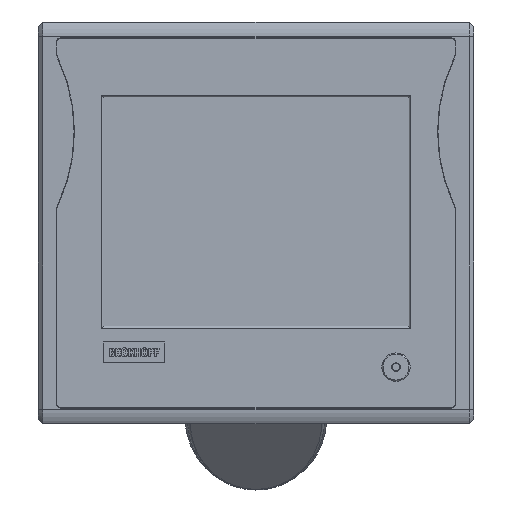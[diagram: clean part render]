
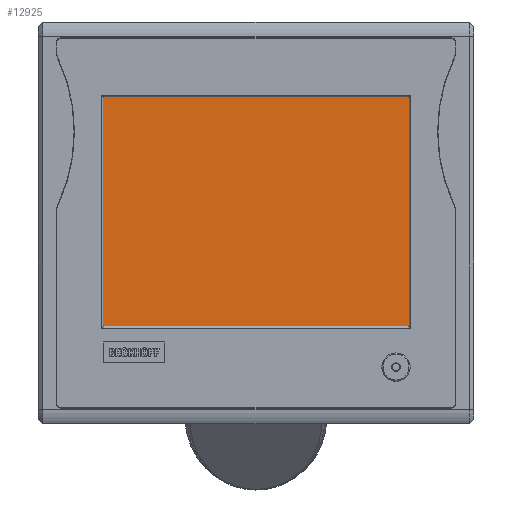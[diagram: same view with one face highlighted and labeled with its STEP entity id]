
A CAD part, top view. The second image highlights one B-rep face of the part: STEP entity #12925.
In plain terms, the highlighted planar face has unit normal (0, 0, 1).
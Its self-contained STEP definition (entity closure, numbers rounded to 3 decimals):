
#1308=FACE_OUTER_BOUND('',#2041,.T.);
#2041=EDGE_LOOP('',(#8131,#8132,#8133,#8134));
#2877=LINE('',#18858,#3935);
#2880=LINE('',#18864,#3938);
#2883=LINE('',#18870,#3941);
#2886=LINE('',#18874,#3944);
#3935=VECTOR('',#15211,10.);
#3938=VECTOR('',#15216,10.);
#3941=VECTOR('',#15221,10.);
#3944=VECTOR('',#15226,10.);
#4993=VERTEX_POINT('',#18855);
#4994=VERTEX_POINT('',#18857);
#4996=VERTEX_POINT('',#18863);
#4998=VERTEX_POINT('',#18869);
#6248=EDGE_CURVE('',#4994,#4993,#2877,.T.);
#6251=EDGE_CURVE('',#4996,#4994,#2880,.T.);
#6254=EDGE_CURVE('',#4998,#4996,#2883,.T.);
#6257=EDGE_CURVE('',#4993,#4998,#2886,.T.);
#8131=ORIENTED_EDGE('',*,*,#6257,.T.);
#8132=ORIENTED_EDGE('',*,*,#6254,.T.);
#8133=ORIENTED_EDGE('',*,*,#6251,.T.);
#8134=ORIENTED_EDGE('',*,*,#6248,.T.);
#11857=PLANE('',#13915);
#12925=ADVANCED_FACE('',(#1308),#11857,.T.);
#13915=AXIS2_PLACEMENT_3D('',#18875,#15227,#15228);
#15211=DIRECTION('',(-1.,0.,0.));
#15216=DIRECTION('',(0.,1.,0.));
#15221=DIRECTION('',(1.,0.,0.));
#15226=DIRECTION('',(0.,-1.,0.));
#15227=DIRECTION('center_axis',(0.,0.,1.));
#15228=DIRECTION('ref_axis',(1.,0.,0.));
#18855=CARTESIAN_POINT('',(22.9,239.1,25.501));
#18857=CARTESIAN_POINT('',(270.9,239.1,25.501));
#18858=CARTESIAN_POINT('',(270.9,239.1,25.501));
#18863=CARTESIAN_POINT('',(270.9,53.1,25.501));
#18864=CARTESIAN_POINT('',(270.9,53.1,25.501));
#18869=CARTESIAN_POINT('',(22.9,53.1,25.501));
#18870=CARTESIAN_POINT('',(22.9,53.1,25.501));
#18874=CARTESIAN_POINT('',(22.9,239.1,25.501));
#18875=CARTESIAN_POINT('Origin',(146.9,146.1,25.501));
